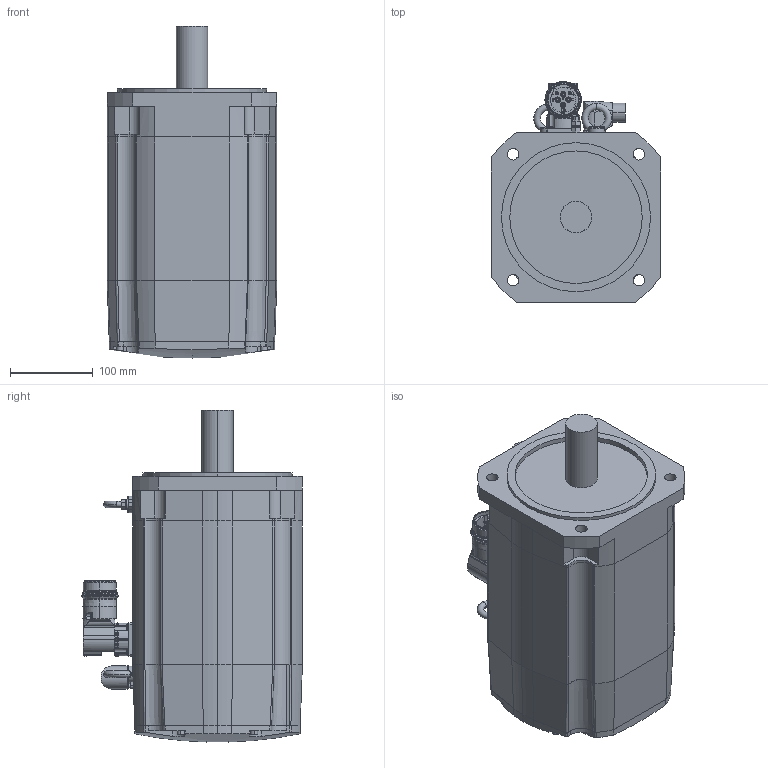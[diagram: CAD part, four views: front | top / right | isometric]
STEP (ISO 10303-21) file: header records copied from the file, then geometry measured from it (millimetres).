
FILE_DESCRIPTION (( 'STEP AP214' ), '1' );
FILE_NAME ('SH32051x0xA2100.STEP', '2013-11-29T13:09:54', ( 'Windows User' ), ( 'Schneider-Electric' ), 'SwSTEP 2.0', 'SolidWorks 2010', '' );
FILE_SCHEMA (( 'AUTOMOTIVE_DESIGN' ));
Length unit declared in the file: millimetre
Products named in the file (9): 1-100011023_K-GEHÄUSE SH3-205X_000_Gehäuse stack 1 ohne Bremse; SH32051x0xA2100; 1-100011027_K-DECKEL SH205_000; 1-100011024_K-FLANSCH SH205X_000_Flansch mit Welle ohne Passfedernut; 1-100011025_K-LAGERSCHILD SH205X_000; K-ENCODER-CONINVERS-ABGEW_ENCODER-CONINVERS-ABGEWINKELT_000_Single- MultiTurn; 1-100009587_K-ERDUNGSBOLZEN M6_VM1; Ringschraube DIN 580 M 8     0000019855011; 1-100010211_POWER M40 ABGEWINKELT VEREINFACHT_000_ohne Bremse
Assembly tree (9 placements, depth 2):
  SH32051x0xA2100
    1-100011024_K-FLANSCH SH205X_000_Flansch mit Welle ohne Passfedernut
    K-ENCODER-CONINVERS-ABGEW_ENCODER-CONINVERS-ABGEWINKELT_000_Single- MultiTurn
    1-100011023_K-GEHÄUSE SH3-205X_000_Gehäuse stack 1 ohne Bremse
    1-100009587_K-ERDUNGSBOLZEN M6_VM1
    Ringschraube DIN 580 M 8     0000019855011  x2
    1-100010211_POWER M40 ABGEWINKELT VEREINFACHT_000_ohne Bremse
    1-100011027_K-DECKEL SH205_000
    1-100011025_K-LAGERSCHILD SH205X_000
Bounding box: 205 x 266.5 x 400.83 mm (x, y, z)
Volume: 11382743.6 mm3; surface area: 571616.1 mm2
Topology: 9 solids, 9 shells, 776 faces, 1955 edges, 1253 vertices
Faces by surface type: cylinder 321, plane 304, bspline 74, cone 45, torus 28, sphere 4
Entity records: 30253 total; most frequent: CARTESIAN_POINT 8018, DIRECTION 3828, ORIENTED_EDGE 3746, EDGE_CURVE 1873, AXIS2_PLACEMENT_3D 1471, VERTEX_POINT 1214, LINE 886, VECTOR 886
